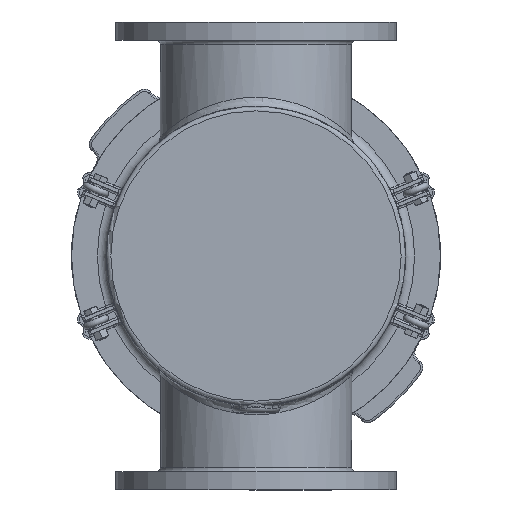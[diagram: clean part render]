
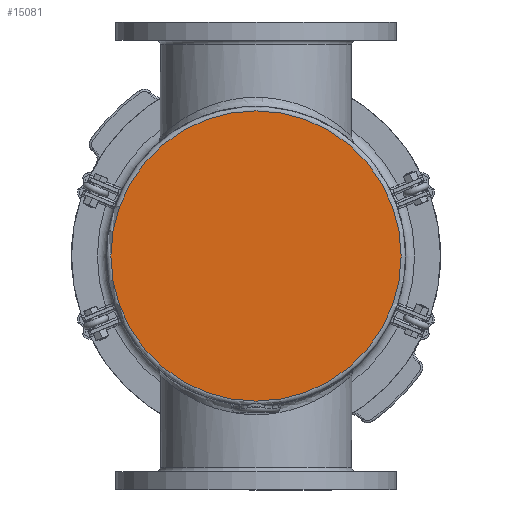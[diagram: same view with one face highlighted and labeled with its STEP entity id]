
A CAD part, front view. The second image highlights one B-rep face of the part: STEP entity #15081.
In plain terms, the highlighted planar face has unit normal (0, -1, 0).
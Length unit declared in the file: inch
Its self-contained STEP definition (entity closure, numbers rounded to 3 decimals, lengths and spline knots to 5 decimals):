
#2121=PLANE('',#16079);
#3166=FACE_OUTER_BOUND('',#4132,.T.);
#4132=EDGE_LOOP('',(#10120));
#5613=CIRCLE('',#16075,8.0625);
#6556=VERTEX_POINT('',#23143);
#7926=EDGE_CURVE('',#6556,#6556,#5613,.T.);
#10120=ORIENTED_EDGE('',*,*,#7926,.F.);
#15081=ADVANCED_FACE('',(#3166),#2121,.F.);
#16075=AXIS2_PLACEMENT_3D('',#23144,#18049,#18050);
#16079=AXIS2_PLACEMENT_3D('',#23149,#18057,#18058);
#18049=DIRECTION('center_axis',(0.,1.,0.));
#18050=DIRECTION('ref_axis',(1.,0.,0.));
#18057=DIRECTION('center_axis',(0.,1.,0.));
#18058=DIRECTION('ref_axis',(0.,0.,1.));
#23143=CARTESIAN_POINT('',(-8.0625,0.,0.));
#23144=CARTESIAN_POINT('Origin',(0.,0.,0.));
#23149=CARTESIAN_POINT('Origin',(0.,0.,0.));
